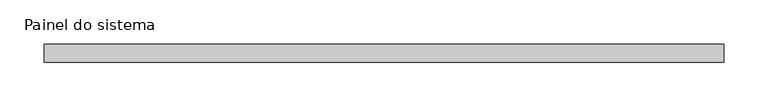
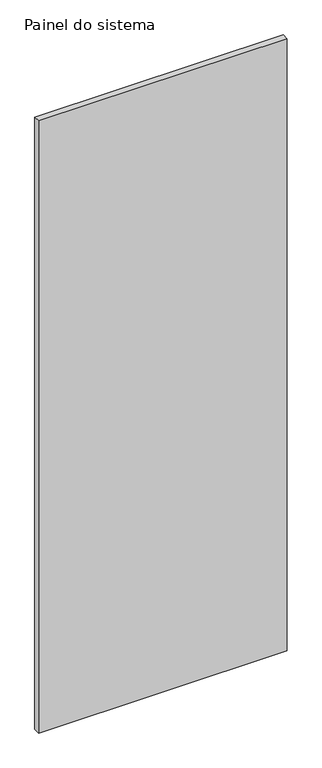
"""IFC4 building model written with IfcOpenShell, lengths in millimetres: plate geometry, Painel do sistema : Envidraçado."""

from ifc_helpers import new_model, si_unit, origin, origin_with_axes, place, context, project, spatial, polyline, outline, extrude, source, transform, mapped, element, save


def painel_do_sistema_fa65fc5a(model_context):
    return source(origin(), model_context, "Body", "SweptSolid", [
        extrude(outline(polyline([(382.2883598, -10.0), (-382.2883598, -10.0), (-382.2883598, 10.0), (382.2883598, 10.0), (382.2883598, -10.0)])), origin_with_axes(), (0.0, 0.0, 1.0), 1990.0),
    ])


if __name__ == "__main__":
    model = new_model("IFC4")
    model_context = context("Model", 3, world=origin())
    ifc_project = project(units=[si_unit("LENGTHUNIT", "METRE", prefix="MILLI")], contexts=[model_context])
    site = spatial("IfcSite", under=ifc_project)
    building = spatial("IfcBuilding", under=site)
    placement = place(None, origin())
    painel_do_sistema_shape = painel_do_sistema_fa65fc5a(model_context)
    element("IfcPlate", 1, ObjectType="Painel do sistema : Envidraçado", at=placement, inside=building, context=model_context, shape_type="MappedRepresentation", body=[
        mapped(painel_do_sistema_shape, transform((0.0, 0.0, 0.0), x_axis=(1.0, 0.0, 0.0), y_axis=(0.0, 1.0, 0.0), z_axis=(0.0, 0.0, 1.0))),
    ])
    save(model, "model.ifc")
